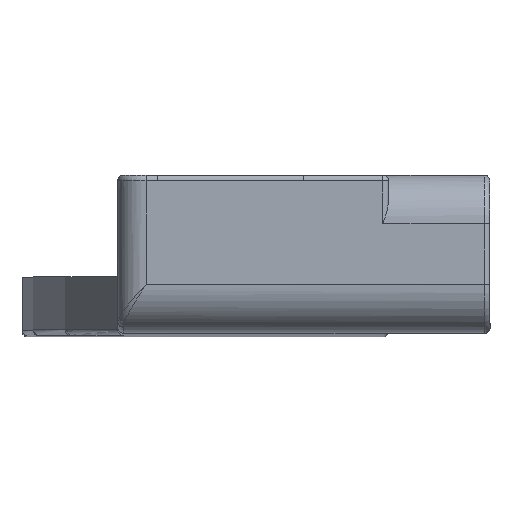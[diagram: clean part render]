
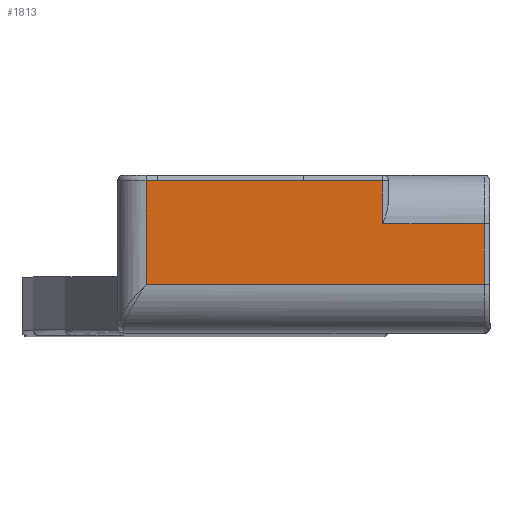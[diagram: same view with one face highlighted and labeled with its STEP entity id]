
A CAD part, top view. The second image highlights one B-rep face of the part: STEP entity #1813.
In plain terms, the highlighted planar face has unit normal (0, 0, 1).
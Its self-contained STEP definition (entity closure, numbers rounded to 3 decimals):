
#127 = DIRECTION ( 'NONE',  ( 0., 1., 0. ) ) ;
#128 = DIRECTION ( 'NONE',  ( 0., 0., 1. ) ) ;
#135 = CARTESIAN_POINT ( 'NONE',  ( 6.5, -5.2, 173.65 ) ) ;
#139 = PLANE ( 'NONE',  #1634 ) ;
#216 = DIRECTION ( 'NONE',  ( 0., -1., 0. ) ) ;
#234 = CARTESIAN_POINT ( 'NONE',  ( 15., -5.2, 173.65 ) ) ;
#275 = DIRECTION ( 'NONE',  ( -1., 0., 0. ) ) ;
#276 = CARTESIAN_POINT ( 'NONE',  ( 15.5, -0.9, 173.65 ) ) ;
#289 = DIRECTION ( 'NONE',  ( 0., -1., 0. ) ) ;
#290 = CARTESIAN_POINT ( 'NONE',  ( 6., -5.2, 173.65 ) ) ;
#408 = DIRECTION ( 'NONE',  ( -1., 0., 0. ) ) ;
#409 = CARTESIAN_POINT ( 'NONE',  ( 15.5, 4.5, 173.65 ) ) ;
#412 = DIRECTION ( 'NONE',  ( 1., 0., 0. ) ) ;
#415 = CARTESIAN_POINT ( 'NONE',  ( 6.5, 8.3, 173.65 ) ) ;
#416 = DIRECTION ( 'NONE',  ( 0., 1., 0. ) ) ;
#421 = CARTESIAN_POINT ( 'NONE',  ( -15., -5.2, 173.65 ) ) ;
#552 = CARTESIAN_POINT ( 'NONE',  ( 15., -0.9, 173.65 ) ) ;
#554 = CARTESIAN_POINT ( 'NONE',  ( -15., -0.9, 173.65 ) ) ;
#556 = CARTESIAN_POINT ( 'NONE',  ( -15., 8.3, 173.65 ) ) ;
#558 = CARTESIAN_POINT ( 'NONE',  ( 6., 8.3, 173.65 ) ) ;
#559 = CARTESIAN_POINT ( 'NONE',  ( 6., 4.5, 173.65 ) ) ;
#560 = CARTESIAN_POINT ( 'NONE',  ( 15., 4.5, 173.65 ) ) ;
#737 = VERTEX_POINT ( 'NONE', #560 ) ;
#738 = VERTEX_POINT ( 'NONE', #559 ) ;
#739 = VERTEX_POINT ( 'NONE', #558 ) ;
#741 = VERTEX_POINT ( 'NONE', #556 ) ;
#743 = VERTEX_POINT ( 'NONE', #554 ) ;
#745 = VERTEX_POINT ( 'NONE', #552 ) ;
#1160 = FACE_OUTER_BOUND ( 'NONE', #1542, .T. ) ;
#1194 = VECTOR ( 'NONE', #216, 1000. ) ;
#1198 = LINE ( 'NONE', #234, #1194 ) ;
#1219 = VECTOR ( 'NONE', #275, 1000. ) ;
#1220 = LINE ( 'NONE', #276, #1219 ) ;
#1265 = VECTOR ( 'NONE', #289, 1000. ) ;
#1266 = LINE ( 'NONE', #290, #1265 ) ;
#1542 = EDGE_LOOP ( 'NONE', ( #2412, #2413, #2414, #2415, #2411, #2416 ) ) ;
#1634 = AXIS2_PLACEMENT_3D ( 'NONE', #135, #128, #127 ) ;
#1693 = EDGE_CURVE ( 'NONE', #743, #741, #1844, .T. ) ;
#1698 = EDGE_CURVE ( 'NONE', #741, #739, #1835, .T. ) ;
#1700 = EDGE_CURVE ( 'NONE', #737, #738, #1923, .T. ) ;
#1753 = EDGE_CURVE ( 'NONE', #739, #738, #1266, .T. ) ;
#1759 = EDGE_CURVE ( 'NONE', #745, #743, #1220, .T. ) ;
#1794 = EDGE_CURVE ( 'NONE', #737, #745, #1198, .T. ) ;
#1813 = ADVANCED_FACE ( 'NONE', ( #1160 ), #139, .T. ) ;
#1828 = VECTOR ( 'NONE', #412, 1000. ) ;
#1832 = VECTOR ( 'NONE', #416, 1000. ) ;
#1835 = LINE ( 'NONE', #415, #1828 ) ;
#1844 = LINE ( 'NONE', #421, #1832 ) ;
#1921 = VECTOR ( 'NONE', #408, 1000. ) ;
#1923 = LINE ( 'NONE', #409, #1921 ) ;
#2411 = ORIENTED_EDGE ( 'NONE', *, *, #1759, .F. ) ;
#2412 = ORIENTED_EDGE ( 'NONE', *, *, #1700, .T. ) ;
#2413 = ORIENTED_EDGE ( 'NONE', *, *, #1753, .F. ) ;
#2414 = ORIENTED_EDGE ( 'NONE', *, *, #1698, .F. ) ;
#2415 = ORIENTED_EDGE ( 'NONE', *, *, #1693, .F. ) ;
#2416 = ORIENTED_EDGE ( 'NONE', *, *, #1794, .F. ) ;
